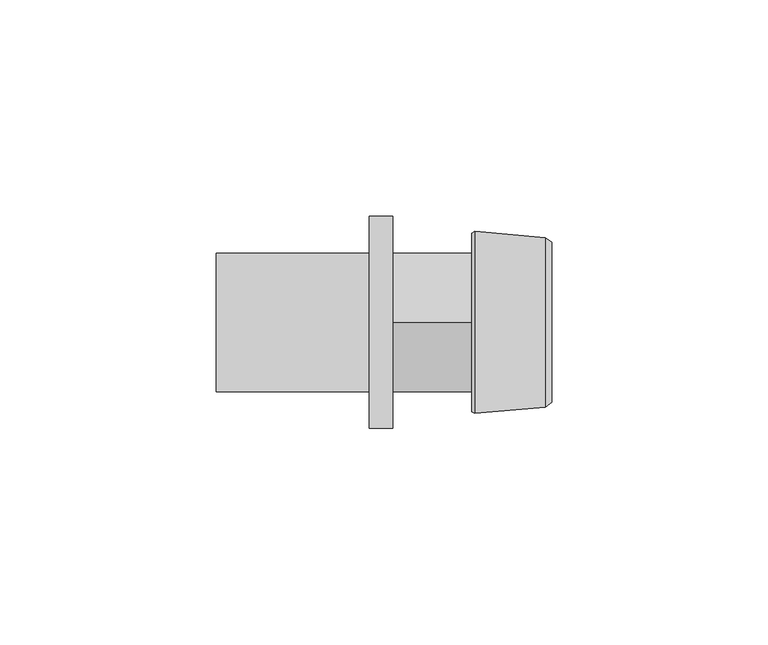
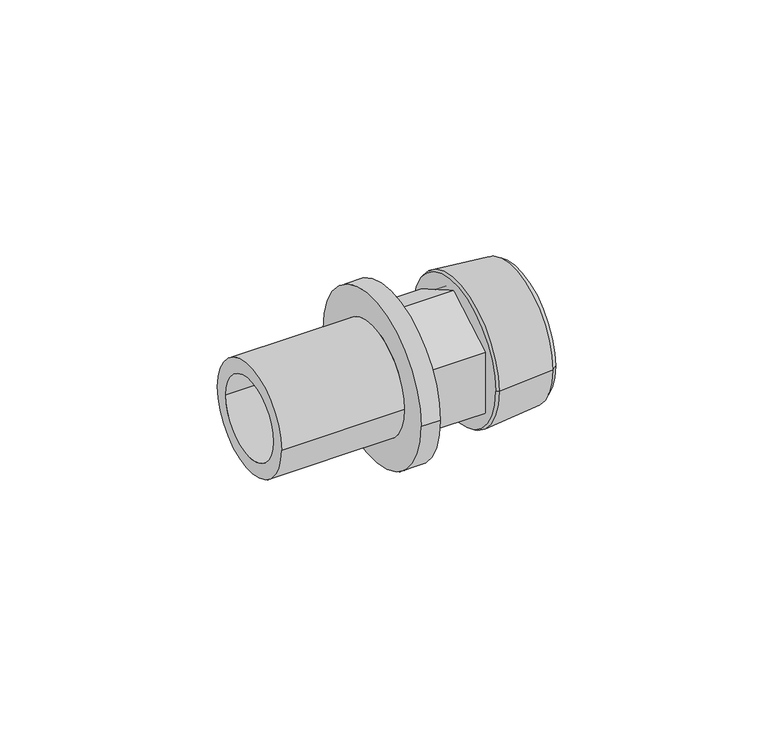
"""IFC4 building model written with IfcOpenShell, lengths in millimetres: pipe fitting geometry, REHAU_RAUTITAN_Adaptor_RX+, with external thread : REHAU_RAUTITAN_Adaptor_RX+, with external thread."""

from ifc_helpers import new_model, si_unit, point, frame, origin, origin_2d, place, context, project, spatial, polyline, circle_curve, trimmed, segment, composite_curve, outline, extrude, source, transform, mapped, element, save
from ifc_brep_helpers import plane_surface, cylinder_surface, revolved_surface, advanced_brep


def pipe_fitting_f8923636(model_context):
    return source(origin(), model_context, "Body", "SolidModel", [
        advanced_brep(
        [(19.2732803, 16.0, 0.0), (19.2732803, -16.0, 0.0), (36.67, -16.0, 0.0), (36.67, 16.0, 0.0), (18.17, 14.8967197, 0.0), (18.17, -14.8967197, 0.0), (18.9106902, 21.045, 0.0), (18.9106902, -21.045, 0.0), (18.17, -20.625, 0.0), (18.17, 20.625, 0.0), (35.1700007, 19.6, 0.0), (35.1700007, -19.6, 0.0), (36.67, 18.495, 0.0), (36.67, -18.495, 0.0)],
        [
            (0, 1, circle_curve(frame((19.2732803, 0.0, 0.0), z_axis=(-1.0, 0.0, 0.0), x_axis=(0.0, -1.0, 0.0)), 16.0)),
            (1, 2),
            (2, 3, circle_curve(frame((36.67, 0.0, 0.0), z_axis=(1.0, 0.0, 0.0), x_axis=(0.0, -1.0, 0.0)), 16.0)),
            (3, 0),
            (4, 5, circle_curve(frame((18.17, 0.0, 0.0), z_axis=(-1.0, 0.0, 0.0), x_axis=(0.0, -1.0, 0.0)), 14.8967197)),
            (5, 1),
            (0, 4),
            (6, 7, circle_curve(frame((18.9106902, 0.0, 0.0), z_axis=(-1.0, 0.0, 0.0), x_axis=(0.0, -1.0, 0.0)), 21.045)),
            (7, 8),
            (8, 9, circle_curve(frame((18.17, 0.0, 0.0), z_axis=(1.0, 0.0, 0.0), x_axis=(0.0, -1.0, 0.0)), 20.625)),
            (9, 6),
            (10, 11, circle_curve(frame((35.1700007, 0.0, 0.0), z_axis=(-1.0, 0.0, 0.0), x_axis=(0.0, -1.0, 0.0)), 19.6)),
            (11, 7),
            (6, 10),
            (12, 13, circle_curve(frame((36.67, 0.0, 0.0), z_axis=(-1.0, 0.0, 0.0), x_axis=(0.0, -1.0, 0.0)), 18.495)),
            (13, 11),
            (10, 12),
            (1, 0, circle_curve(frame((19.2732803, 0.0, 0.0), z_axis=(-1.0, 0.0, 0.0), x_axis=(0.0, 1.0, 0.0)), 16.0)),
            (3, 2, circle_curve(frame((36.67, 0.0, 0.0), z_axis=(1.0, 0.0, 0.0), x_axis=(0.0, 1.0, 0.0)), 16.0)),
            (5, 4, circle_curve(frame((18.17, 0.0, 0.0), z_axis=(-1.0, 0.0, 0.0), x_axis=(0.0, 1.0, 0.0)), 14.8967197)),
            (8, 9, circle_curve(frame((18.17, 0.0, 0.0), z_axis=(-1.0, 0.0, 0.0), x_axis=(0.0, 1.0, 0.0)), 20.625)),
            (7, 6, circle_curve(frame((18.9106902, 0.0, 0.0), z_axis=(-1.0, 0.0, 0.0), x_axis=(0.0, 1.0, 0.0)), 21.045)),
            (11, 10, circle_curve(frame((35.1700007, 0.0, 0.0), z_axis=(-1.0, 0.0, 0.0), x_axis=(0.0, 1.0, 0.0)), 19.6)),
            (13, 12, circle_curve(frame((36.67, 0.0, 0.0), z_axis=(-1.0, 0.0, 0.0), x_axis=(0.0, 1.0, 0.0)), 18.495)),
        ],
        [
            revolved_surface(polyline([(36.67, -16.0, 0.0), (19.2732803, -16.0, 0.0)]), (0.0, 0.0, 0.0), (1.0, 0.0, 0.0)),
            revolved_surface(polyline([(19.2732803, -16.0, 0.0), (18.17, -14.8967197, 0.0)]), (0.0, 0.0, 0.0), (1.0, 0.0, 0.0)),
            revolved_surface(polyline([(18.17, -20.625, 0.0), (18.9106902, -21.045, 0.0)]), (0.0, 0.0, 0.0), (1.0, 0.0, 0.0)),
            revolved_surface(polyline([(18.9106902, -21.045, 0.0), (35.1700007, -19.6, 0.0)]), (0.0, 0.0, 0.0), (1.0, 0.0, 0.0)),
            revolved_surface(polyline([(35.1700007, -19.6, 0.0), (36.67, -18.495, 0.0)]), (0.0, 0.0, 0.0), (1.0, 0.0, 0.0)),
            revolved_surface(polyline([(36.67, 16.0, 0.0), (19.2732803, 16.0, 0.0)]), (0.0, 0.0, 0.0), (1.0, 0.0, 0.0)),
            revolved_surface(polyline([(19.2732803, 16.0, 0.0), (18.17, 14.8967197, 0.0)]), (0.0, 0.0, 0.0), (1.0, 0.0, 0.0)),
            plane_surface(frame((18.17, 0.0, 0.0), z_axis=(-1.0, 0.0, 0.0), x_axis=(0.0, 1.0, 0.0))),
            revolved_surface(polyline([(18.17, 20.625, 0.0), (18.9106902, 21.045, 0.0)]), (0.0, 0.0, 0.0), (1.0, 0.0, 0.0)),
            revolved_surface(polyline([(18.9106902, 21.045, 0.0), (35.1700007, 19.6, 0.0)]), (0.0, 0.0, 0.0), (1.0, 0.0, 0.0)),
            revolved_surface(polyline([(35.1700007, 19.6, 0.0), (36.67, 18.495, 0.0)]), (0.0, 0.0, 0.0), (1.0, 0.0, 0.0)),
            plane_surface(frame((36.67, 0.0, 0.0), z_axis=(1.0, 0.0, 0.0), x_axis=(0.0, 1.0, 0.0))),
        ],
        [
            (0, [[1, 2, 3, 4]]),
            (1, [[5, 6, -1, 7]]),
            (2, [[8, 9, 10, 11]]),
            (3, [[12, 13, -8, 14]]),
            (4, [[15, 16, -12, 17]]),
            (5, [[18, -4, 19, -2]]),
            (6, [[20, -7, -18, -6]]),
            (7, [[21, -10], [-20, -5]]),
            (8, [[22, -11, -21, -9]]),
            (9, [[23, -14, -22, -13]]),
            (10, [[24, -17, -23, -16]]),
            (11, [[-24, -15], [-19, -3]]),
        ],
    ),
        extrude(outline(polyline([(0.0, -18.4752086), (-16.0, -9.2376043), (-16.0, 9.2376043), (0.0, 18.4752086), (16.0, 9.2376043), (16.0, -9.2376043), (0.0, -18.4752086)]), holes=[composite_curve([segment(trimmed(circle_curve(origin_2d(), 11.75), [point((-11.75, 0.0))], [point((11.75, 0.0))], True, "CARTESIAN"), True, "CONTINUOUS"), segment(trimmed(circle_curve(origin_2d(), 11.75), [point((11.75, 0.0))], [point((-11.75, 0.0))], True, "CARTESIAN"), True, "CONTINUOUS")], self_intersect=False)]), frame((0.0, 0.0, 0.0), z_axis=(1.0, 0.0, 0.0), x_axis=(0.0, 1.0, 0.0)), (0.0, 0.0, 1.0), 18.17),
        advanced_brep(
        [(-40.83, 11.75, 0.0), (-40.83, -11.75, 0.0), (0.0, -11.75, 0.0), (0.0, 11.75, 0.0), (-5.5, 16.0, 0.0), (-5.5, -16.0, 0.0), (-40.83, -16.0, 0.0), (-40.83, 16.0, 0.0), (0.0, 24.5, 0.0), (0.0, -24.5, 0.0), (-5.5, -24.5, 0.0), (-5.5, 24.5, 0.0)],
        [
            (0, 1, circle_curve(frame((-40.83, 0.0, 0.0), z_axis=(-1.0, 0.0, 0.0), x_axis=(0.0, -1.0, 0.0)), 11.75)),
            (1, 2),
            (2, 3, circle_curve(frame((0.0, 0.0, 0.0), z_axis=(1.0, 0.0, 0.0), x_axis=(0.0, -1.0, 0.0)), 11.75)),
            (3, 0),
            (4, 5, circle_curve(frame((-5.5, 0.0, 0.0), z_axis=(-1.0, 0.0, 0.0), x_axis=(0.0, -1.0, 0.0)), 16.0)),
            (5, 6),
            (6, 7, circle_curve(frame((-40.83, 0.0, 0.0), z_axis=(1.0, 0.0, 0.0), x_axis=(0.0, -1.0, 0.0)), 16.0)),
            (7, 4),
            (8, 9, circle_curve(frame((0.0, 0.0, 0.0), z_axis=(-1.0, 0.0, 0.0), x_axis=(0.0, -1.0, 0.0)), 24.5)),
            (9, 10),
            (10, 11, circle_curve(frame((-5.5, 0.0, 0.0), z_axis=(1.0, 0.0, 0.0), x_axis=(0.0, -1.0, 0.0)), 24.5)),
            (11, 8),
            (8, 9, circle_curve(frame((0.0, 0.0, 0.0), z_axis=(1.0, 0.0, 0.0), x_axis=(0.0, 1.0, 0.0)), 24.5)),
            (2, 3, circle_curve(frame((0.0, 0.0, 0.0), z_axis=(-1.0, 0.0, 0.0), x_axis=(0.0, 1.0, 0.0)), 11.75)),
            (1, 0, circle_curve(frame((-40.83, 0.0, 0.0), z_axis=(-1.0, 0.0, 0.0), x_axis=(0.0, 1.0, 0.0)), 11.75)),
            (6, 7, circle_curve(frame((-40.83, 0.0, 0.0), z_axis=(-1.0, 0.0, 0.0), x_axis=(0.0, 1.0, 0.0)), 16.0)),
            (5, 4, circle_curve(frame((-5.5, 0.0, 0.0), z_axis=(-1.0, 0.0, 0.0), x_axis=(0.0, 1.0, 0.0)), 16.0)),
            (10, 11, circle_curve(frame((-5.5, 0.0, 0.0), z_axis=(-1.0, 0.0, 0.0), x_axis=(0.0, 1.0, 0.0)), 24.5)),
        ],
        [
            revolved_surface(polyline([(0.0, -11.75, 0.0), (-40.83, -11.75, 0.0)]), (0.0, 0.0, 0.0), (1.0, 0.0, 0.0)),
            cylinder_surface(frame((0.0, 0.0, 0.0), z_axis=(1.0, 0.0, 0.0), x_axis=(0.0, -1.0, 0.0)), 16.0),
            cylinder_surface(frame((0.0, 0.0, 0.0), z_axis=(1.0, 0.0, 0.0), x_axis=(0.0, -1.0, 0.0)), 24.5),
            plane_surface(frame((0.0, 0.0, 0.0), z_axis=(1.0, 0.0, 0.0), x_axis=(0.0, 1.0, 0.0))),
            revolved_surface(polyline([(0.0, 11.75, 0.0), (-40.83, 11.75, 0.0)]), (0.0, 0.0, 0.0), (1.0, 0.0, 0.0)),
            plane_surface(frame((-40.83, 0.0, 0.0), z_axis=(-1.0, 0.0, 0.0), x_axis=(0.0, 1.0, 0.0))),
            cylinder_surface(frame((0.0, 0.0, 0.0), z_axis=(1.0, 0.0, 0.0), x_axis=(0.0, 1.0, 0.0)), 16.0),
            plane_surface(frame((-5.5, 0.0, 0.0), z_axis=(-1.0, 0.0, 0.0), x_axis=(0.0, 1.0, 0.0))),
            cylinder_surface(frame((0.0, 0.0, 0.0), z_axis=(1.0, 0.0, 0.0), x_axis=(0.0, 1.0, 0.0)), 24.5),
        ],
        [
            (0, [[1, 2, 3, 4]]),
            (1, [[5, 6, 7, 8]]),
            (2, [[9, 10, 11, 12]]),
            (3, [[13, -9], [14, -3]]),
            (4, [[15, -4, -14, -2]]),
            (5, [[16, -7], [-15, -1]]),
            (6, [[17, -8, -16, -6]]),
            (7, [[18, -11], [-17, -5]]),
            (8, [[-13, -12, -18, -10]]),
        ],
    ),
    ])


if __name__ == "__main__":
    model = new_model("IFC4")
    model_context = context("Model", 3, world=origin())
    ifc_project = project(units=[si_unit("LENGTHUNIT", "METRE", prefix="MILLI")], contexts=[model_context])
    site = spatial("IfcSite", under=ifc_project)
    building = spatial("IfcBuilding", under=site)
    placement = place(None, origin())
    pipe_fitting_shape = pipe_fitting_f8923636(model_context)
    element("IfcPipeFitting", 1, ObjectType="REHAU_RAUTITAN_Adaptor_RX+, with external thread : REHAU_RAUTITAN_Adaptor_RX+, with external thread", at=placement, inside=building, context=model_context, shape_type="MappedRepresentation", body=[
        mapped(pipe_fitting_shape, transform((0.0, 0.0, 0.0), x_axis=(1.0, 0.0, 0.0), y_axis=(0.0, 1.0, 0.0), z_axis=(0.0, 0.0, 1.0))),
    ])
    save(model, "model.ifc")
